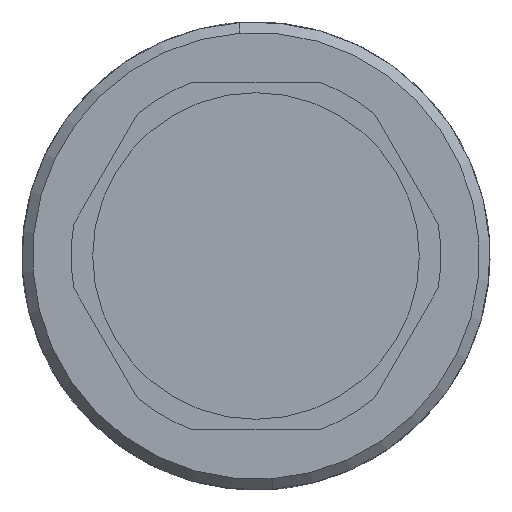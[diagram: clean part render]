
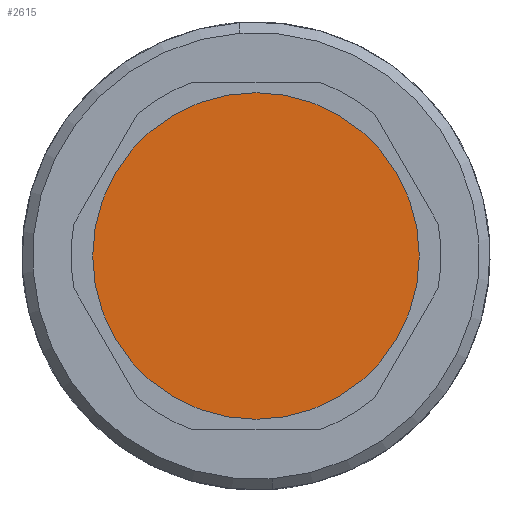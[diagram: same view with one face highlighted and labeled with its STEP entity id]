
A CAD part, left-side view. The second image highlights one B-rep face of the part: STEP entity #2615.
In plain terms, the highlighted planar face has unit normal (-1, 0, 0).
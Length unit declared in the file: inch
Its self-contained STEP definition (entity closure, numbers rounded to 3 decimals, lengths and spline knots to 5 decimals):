
#74 = CARTESIAN_POINT ( 'NONE',  ( -3.204, 0., -0.7635 ) ) ;
#221 = CARTESIAN_POINT ( 'NONE',  ( -3.204, 0., 0. ) ) ;
#315 = DIRECTION ( 'NONE',  ( 0., 0., -1. ) ) ;
#378 = ORIENTED_EDGE ( 'NONE', *, *, #2244, .F. ) ;
#507 = ORIENTED_EDGE ( 'NONE', *, *, #2264, .F. ) ;
#619 = DIRECTION ( 'NONE',  ( 1., 0., 0. ) ) ;
#687 = CIRCLE ( 'NONE', #2141, 0.7635 ) ;
#751 = CARTESIAN_POINT ( 'NONE',  ( -3.204, 0., 0.7635 ) ) ;
#821 = DIRECTION ( 'NONE',  ( 1., 0., 0. ) ) ;
#849 = DIRECTION ( 'NONE',  ( 0., 0., -1. ) ) ;
#850 = FACE_OUTER_BOUND ( 'NONE', #2493, .T. ) ;
#1124 = CARTESIAN_POINT ( 'NONE',  ( -3.204, 0., 0. ) ) ;
#1324 = CIRCLE ( 'NONE', #2152, 0.7635 ) ;
#1331 = VERTEX_POINT ( 'NONE', #74 ) ;
#1406 = VERTEX_POINT ( 'NONE', #751 ) ;
#1803 = DIRECTION ( 'NONE',  ( 0., 0., 1. ) ) ;
#1839 = PLANE ( 'NONE',  #2050 ) ;
#1882 = DIRECTION ( 'NONE',  ( -1., 0., 0. ) ) ;
#1927 = CARTESIAN_POINT ( 'NONE',  ( -3.204, 0.7635, 0. ) ) ;
#2050 = AXIS2_PLACEMENT_3D ( 'NONE', #1927, #1882, #1803 ) ;
#2141 = AXIS2_PLACEMENT_3D ( 'NONE', #221, #821, #849 ) ;
#2152 = AXIS2_PLACEMENT_3D ( 'NONE', #1124, #619, #315 ) ;
#2244 = EDGE_CURVE ( 'NONE', #1331, #1406, #1324, .T. ) ;
#2264 = EDGE_CURVE ( 'NONE', #1406, #1331, #687, .T. ) ;
#2493 = EDGE_LOOP ( 'NONE', ( #378, #507 ) ) ;
#2615 = ADVANCED_FACE ( 'NONE', ( #850 ), #1839, .T. ) ;
